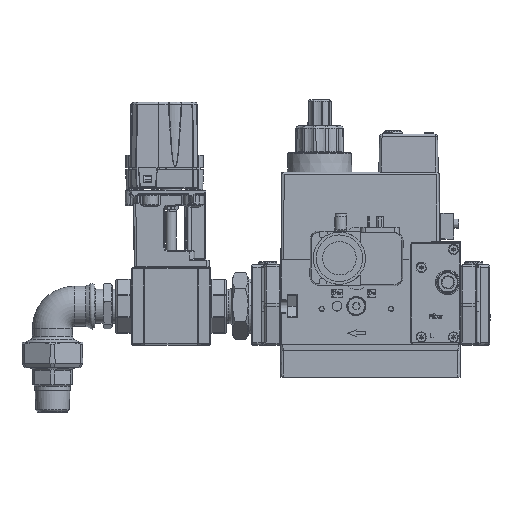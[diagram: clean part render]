
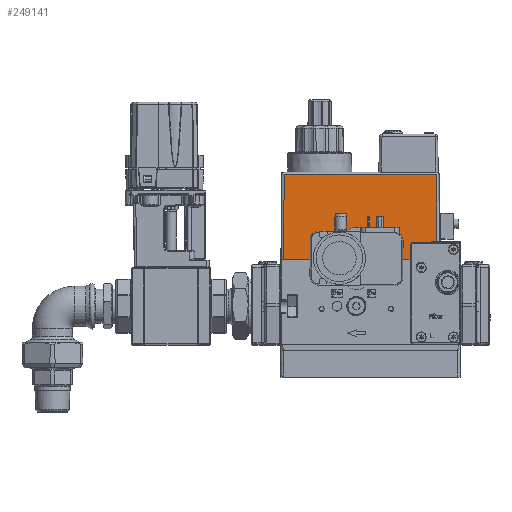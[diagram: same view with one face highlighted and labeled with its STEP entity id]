
A CAD part, top view. The second image highlights one B-rep face of the part: STEP entity #249141.
In plain terms, the highlighted planar face has unit normal (0, 0.009, 1) as drawn and (0, 1, 0.009) by its records, which use the part's own axes.
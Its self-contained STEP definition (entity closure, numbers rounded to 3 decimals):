
#430 = VECTOR ( 'NONE', #116426, 1000. ) ;
#7052 = CARTESIAN_POINT ( 'NONE',  ( -87.07, 47.376, 14.2 ) ) ;
#14657 = VERTEX_POINT ( 'NONE', #159261 ) ;
#16059 = EDGE_CURVE ( 'NONE', #174420, #207398, #290721, .T. ) ;
#22019 = CARTESIAN_POINT ( 'NONE',  ( -73.665, 47.39, 12.626 ) ) ;
#23671 = CARTESIAN_POINT ( 'NONE',  ( -73.844, 47.389, 12.722 ) ) ;
#24909 = CARTESIAN_POINT ( 'NONE',  ( -87., 47.388, 12.806 ) ) ;
#38514 = DIRECTION ( 'NONE',  ( -1., 0., 0. ) ) ;
#44159 = CARTESIAN_POINT ( 'NONE',  ( -73.994, 47.388, 12.782 ) ) ;
#46530 = ORIENTED_EDGE ( 'NONE', *, *, #16059, .T. ) ;
#47529 = CARTESIAN_POINT ( 'NONE',  ( -73.44, 47.392, 12.415 ) ) ;
#49622 = ORIENTED_EDGE ( 'NONE', *, *, #215215, .T. ) ;
#50441 = DIRECTION ( 'NONE',  ( -1., 0., 0. ) ) ;
#58627 = CARTESIAN_POINT ( 'NONE',  ( -91., 47.376, 14.2 ) ) ;
#64682 = ORIENTED_EDGE ( 'NONE', *, *, #251325, .T. ) ;
#66974 = VECTOR ( 'NONE', #38514, 1000. ) ;
#69668 = VECTOR ( 'NONE', #50441, 1000. ) ;
#81298 = VERTEX_POINT ( 'NONE', #283615 ) ;
#85516 = CARTESIAN_POINT ( 'NONE',  ( -73.244, 47.5, 0. ) ) ;
#92144 = CARTESIAN_POINT ( 'NONE',  ( -87., 47.5, 0. ) ) ;
#94050 = DIRECTION ( 'NONE',  ( -0.009, -0.009, 1. ) ) ;
#95770 = VERTEX_POINT ( 'NONE', #123801 ) ;
#98016 = EDGE_CURVE ( 'NONE', #212182, #319124, #324156, .T. ) ;
#98737 = VECTOR ( 'NONE', #247675, 1000. ) ;
#101012 = CARTESIAN_POINT ( 'NONE',  ( -87.058, 47.388, 12.806 ) ) ;
#107121 = VECTOR ( 'NONE', #318844, 1000. ) ;
#108842 = ORIENTED_EDGE ( 'NONE', *, *, #152739, .T. ) ;
#116426 = DIRECTION ( 'NONE',  ( 0.006, -0.009, 1. ) ) ;
#119686 = CARTESIAN_POINT ( 'NONE',  ( -73.244, 47.5, 0. ) ) ;
#123801 = CARTESIAN_POINT ( 'NONE',  ( 27.424, 46.924, 66.017 ) ) ;
#127572 = CARTESIAN_POINT ( 'NONE',  ( -73.293, 47.394, 12.114 ) ) ;
#127762 = CARTESIAN_POINT ( 'NONE',  ( -87., 46.924, 66.017 ) ) ;
#131006 = LINE ( 'NONE', #337118, #159679 ) ;
#131486 = EDGE_CURVE ( 'NONE', #81298, #306329, #167653, .T. ) ;
#138686 = CARTESIAN_POINT ( 'NONE',  ( -91., 47.376, 14.2 ) ) ;
#144993 = DIRECTION ( 'NONE',  ( 0., -0.009, 1. ) ) ;
#148068 = CARTESIAN_POINT ( 'NONE',  ( -74.244, 47.388, 12.806 ) ) ;
#151436 = CARTESIAN_POINT ( 'NONE',  ( -73.586, 47.39, 12.562 ) ) ;
#152739 = EDGE_CURVE ( 'NONE', #306329, #212182, #243816, .T. ) ;
#153092 = CARTESIAN_POINT ( 'NONE',  ( -73.308, 47.394, 12.158 ) ) ;
#159261 = CARTESIAN_POINT ( 'NONE',  ( -90.699, 46.924, 66.017 ) ) ;
#159679 = VECTOR ( 'NONE', #94050, 1000. ) ;
#160854 = ORIENTED_EDGE ( 'NONE', *, *, #131486, .T. ) ;
#161068 = EDGE_CURVE ( 'NONE', #258345, #174420, #131006, .T. ) ;
#161213 = CARTESIAN_POINT ( 'NONE',  ( -87., 47.376, 14.2 ) ) ;
#167653 = LINE ( 'NONE', #220376, #98737 ) ;
#173613 = CARTESIAN_POINT ( 'NONE',  ( -73.767, 47.389, 12.686 ) ) ;
#174420 = VERTEX_POINT ( 'NONE', #7052 ) ;
#178665 = CARTESIAN_POINT ( 'NONE',  ( -73.279, 47.395, 12.07 ) ) ;
#184325 = DIRECTION ( 'NONE',  ( 0.009, 0.009, -1. ) ) ;
#185971 = LINE ( 'NONE', #313831, #248700 ) ;
#194777 = LINE ( 'NONE', #138686, #430 ) ;
#207398 = VERTEX_POINT ( 'NONE', #58627 ) ;
#207486 = CARTESIAN_POINT ( 'NONE',  ( -73.244, 47.396, 11.869 ) ) ;
#212182 = VERTEX_POINT ( 'NONE', #264705 ) ;
#215215 = EDGE_CURVE ( 'NONE', #207398, #14657, #194777, .T. ) ;
#220376 = CARTESIAN_POINT ( 'NONE',  ( -87., 47.5, 0. ) ) ;
#220763 = AXIS2_PLACEMENT_3D ( 'NONE', #92144, #299996, #144993 ) ;
#224905 = FACE_OUTER_BOUND ( 'NONE', #282671, .T. ) ;
#226343 = CARTESIAN_POINT ( 'NONE',  ( -74.117, 47.388, 12.806 ) ) ;
#228073 = CARTESIAN_POINT ( 'NONE',  ( -73.253, 47.396, 11.963 ) ) ;
#241837 = ORIENTED_EDGE ( 'NONE', *, *, #161068, .T. ) ;
#243816 = LINE ( 'NONE', #85516, #107121 ) ;
#246915 = EDGE_CURVE ( 'NONE', #14657, #95770, #330549, .T. ) ;
#247675 = DIRECTION ( 'NONE',  ( -1., 0., 0. ) ) ;
#248700 = VECTOR ( 'NONE', #184325, 1000. ) ;
#249141 = ADVANCED_FACE ( 'NONE', ( #224905 ), #325544, .T. ) ;
#251325 = EDGE_CURVE ( 'NONE', #319124, #258345, #334942, .T. ) ;
#251843 = ORIENTED_EDGE ( 'NONE', *, *, #313960, .T. ) ;
#255517 = DIRECTION ( 'NONE',  ( 1., 0., 0. ) ) ;
#256996 = CARTESIAN_POINT ( 'NONE',  ( -73.365, 47.393, 12.302 ) ) ;
#258345 = VERTEX_POINT ( 'NONE', #101012 ) ;
#264427 = VECTOR ( 'NONE', #255517, 1000. ) ;
#264705 = CARTESIAN_POINT ( 'NONE',  ( -73.244, 47.397, 11.806 ) ) ;
#277552 = CARTESIAN_POINT ( 'NONE',  ( -73.861, 47.389, 12.73 ) ) ;
#282671 = EDGE_LOOP ( 'NONE', ( #108842, #303178, #64682, #241837, #46530, #49622, #319024, #251843, #160854 ) ) ;
#283615 = CARTESIAN_POINT ( 'NONE',  ( 28., 47.5, 0. ) ) ;
#290721 = LINE ( 'NONE', #161213, #66974 ) ;
#299996 = DIRECTION ( 'NONE',  ( 0., 1., 0.009 ) ) ;
#303178 = ORIENTED_EDGE ( 'NONE', *, *, #98016, .T. ) ;
#303929 = CARTESIAN_POINT ( 'NONE',  ( -74.244, 47.388, 12.806 ) ) ;
#306329 = VERTEX_POINT ( 'NONE', #119686 ) ;
#311522 = CARTESIAN_POINT ( 'NONE',  ( -73.303, 47.394, 12.144 ) ) ;
#313831 = CARTESIAN_POINT ( 'NONE',  ( 27.424, 46.924, 66.017 ) ) ;
#313960 = EDGE_CURVE ( 'NONE', #95770, #81298, #185971, .T. ) ;
#318844 = DIRECTION ( 'NONE',  ( 0., -0.009, 1. ) ) ;
#319024 = ORIENTED_EDGE ( 'NONE', *, *, #246915, .T. ) ;
#319124 = VERTEX_POINT ( 'NONE', #303929 ) ;
#324156 = B_SPLINE_CURVE_WITH_KNOTS ( 'NONE', 3,
 ( #335383, #207486, #228073, #178665, #127572, #311522, #153092, #256996, #47529, #151436, #22019, #173613, #332007, #23671, #277552, #44159, #226343, #148068 ),
 .UNSPECIFIED., .F., .F.,
 ( 4, 1, 1, 2, 2, 2, 1, 1, 2, 2, 4 ),
 ( 0., 0.125, 0.188, 0.219, 0.25, 0.5, 0.625, 0.688, 0.719, 0.75, 1. ),
 .UNSPECIFIED. ) ;
#325544 = PLANE ( 'NONE',  #220763 ) ;
#330549 = LINE ( 'NONE', #127762, #264427 ) ;
#332007 = CARTESIAN_POINT ( 'NONE',  ( -73.813, 47.389, 12.708 ) ) ;
#334942 = LINE ( 'NONE', #24909, #69668 ) ;
#335383 = CARTESIAN_POINT ( 'NONE',  ( -73.244, 47.397, 11.806 ) ) ;
#337118 = CARTESIAN_POINT ( 'NONE',  ( -87.058, 47.388, 12.806 ) ) ;
